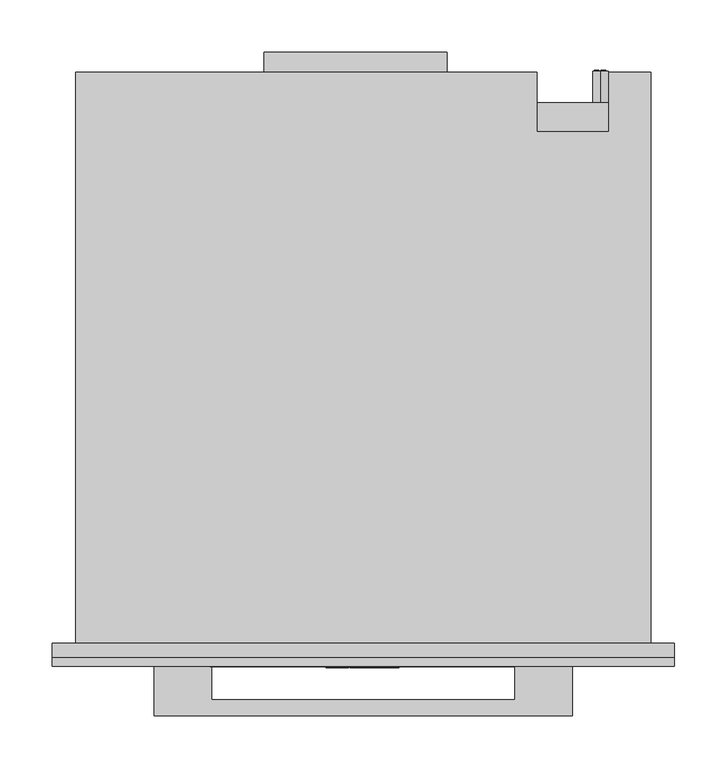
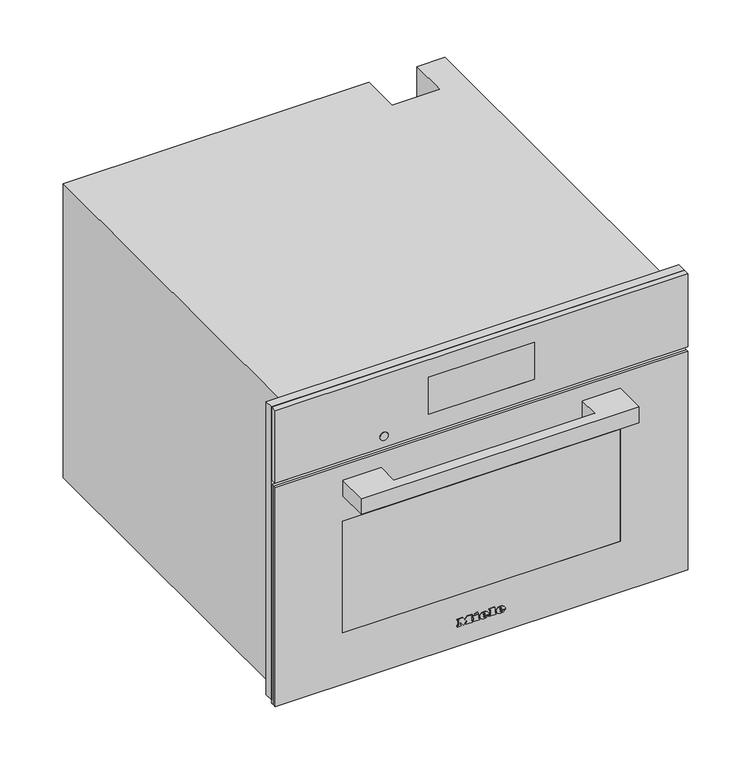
"""IFC4 building model written with IfcOpenShell, lengths in millimetres: proxy geometry, 11876600_USA_DGC7840_GRGR : 23784032_USA_11876600_DGC7840_GRGR."""

from ifc_helpers import new_model, si_unit, point, frame, frame_2d, origin, place, context, project, spatial, polyline, circle_curve, ellipse_curve, trimmed, segment, composite_curve, outline, extrude, faceted_brep, source, transform, mapped, element, save
from ifc_brep_helpers import plane_surface, cylinder_surface, revolved_surface, extruded_surface, advanced_brep


def specialty_equipment_8b00cf28(model_context):
    return source(origin(), model_context, "Body", "SolidModel", [
        extrude(outline(polyline([(455.0, 297.5), (455.0, -297.5), (9.0, -297.5), (9.0, 297.5), (455.0, 297.5)]), holes=[polyline([(344.0, -272.5), (344.0, 272.5), (27.0, 272.5), (27.0, -272.5), (344.0, -272.5)])]), frame((0.0, -13.0, 0.0), z_axis=(0.0, 1.0, 0.0), x_axis=(0.0, 0.0, 1.0)), (0.0, 0.0, 1.0), 13.0),
        extrude(outline(polyline([(-95.0, 565.0), (80.0, 565.0), (80.0, 546.0), (-95.0, 546.0), (-95.0, 565.0)])), frame((0.0, 0.0, 260.0), z_axis=(0.0, 0.0, 1.0), x_axis=(1.0, 0.0, 0.0)), (0.0, 0.0, 1.0), 1.0),
        advanced_brep(
        [(227.0, 547.0, 255.5), (227.0, 547.0, 240.5), (221.4098301, 547.0, 243.0), (225.5, 547.0, 243.0), (225.5, 547.0, 253.0), (224.4955303, 547.0, 253.0), (224.4955303, 547.0, 244.0), (221.0315043, 547.0, 244.0), (221.0315043, 547.0, 243.4582978), (232.0, 547.0, 243.0), (232.0, 547.0, 253.0), (227.0, 547.0, 253.0), (227.0, 547.0, 252.0), (231.0, 547.0, 252.0), (231.0, 547.0, 248.5), (228.0, 547.0, 248.5), (228.0, 547.0, 247.5), (231.0, 547.0, 247.5), (231.0, 547.0, 244.0), (227.0, 547.0, 244.0), (227.0, 547.0, 243.0), (227.0, 517.0, 240.5), (227.0, 517.0, 255.5), (232.0, 548.0, 253.0), (232.0, 548.0, 243.0), (227.0, 548.0, 243.0), (227.0, 548.0, 244.0), (231.0, 548.0, 244.0), (231.0, 548.0, 247.5), (228.0, 548.0, 247.5), (228.0, 548.0, 248.5), (231.0, 548.0, 248.5), (231.0, 548.0, 252.0), (227.0, 548.0, 252.0), (227.0, 548.0, 253.0), (225.5, 548.0, 243.0), (221.0315043, 548.0, 243.0), (221.0315043, 548.0, 244.0), (224.4955303, 548.0, 244.0), (224.4955303, 548.0, 253.0), (225.5, 548.0, 253.0), (221.0315043, 547.0, 243.0)],
        [
            (0, 1, circle_curve(frame((227.0, 547.0, 248.0), z_axis=(0.0, 1.0, 0.0), x_axis=(0.0, 0.0, 1.0)), 7.5)),
            (1, 2, circle_curve(frame((227.0, 547.0, 248.0), z_axis=(0.0, 1.0, 0.0), x_axis=(0.0, 0.0, 1.0)), 7.5)),
            (2, 3),
            (3, 4),
            (4, 5),
            (5, 6),
            (6, 7),
            (7, 8),
            (8, 0, circle_curve(frame((227.0, 547.0, 248.0), z_axis=(0.0, 1.0, 0.0), x_axis=(0.0, 0.0, 1.0)), 7.5)),
            (9, 10),
            (10, 11),
            (11, 12),
            (12, 13),
            (13, 14),
            (14, 15),
            (15, 16),
            (16, 17),
            (17, 18),
            (18, 19),
            (19, 20),
            (20, 9),
            (21, 22, circle_curve(frame((227.0, 517.0, 248.0), z_axis=(0.0, -1.0, 0.0), x_axis=(0.0, 0.0, 1.0)), 7.5)),
            (22, 21, circle_curve(frame((227.0, 517.0, 248.0), z_axis=(0.0, -1.0, 0.0), x_axis=(0.0, 0.0, 1.0)), 7.5)),
            (0, 22),
            (21, 1),
            (8, 2, circle_curve(frame((227.0, 547.0, 248.0), z_axis=(0.0, -1.0, 0.0), x_axis=(0.0, 0.0, 1.0)), 7.5)),
            (23, 24),
            (24, 25),
            (25, 26),
            (26, 27),
            (27, 28),
            (28, 29),
            (29, 30),
            (30, 31),
            (31, 32),
            (32, 33),
            (33, 34),
            (34, 23),
            (35, 36),
            (36, 37),
            (37, 38),
            (38, 39),
            (39, 40),
            (40, 35),
            (8, 41),
            (41, 2),
            (23, 10),
            (9, 24),
            (20, 25),
            (19, 26),
            (18, 27),
            (17, 28),
            (16, 29),
            (15, 30),
            (14, 31),
            (13, 32),
            (12, 33),
            (11, 34),
            (35, 3),
            (41, 36),
            (7, 37),
            (6, 38),
            (5, 39),
            (4, 40),
        ],
        [
            plane_surface(frame((227.0, 547.0, 255.5), z_axis=(0.0, 1.0, 0.0), x_axis=(1.0, 0.0, 0.0))),
            plane_surface(frame((227.0, 517.0, 255.5), z_axis=(0.0, -1.0, 0.0), x_axis=(-1.0, 0.0, 0.0))),
            cylinder_surface(frame((227.0, 547.0, 248.0), z_axis=(0.0, -1.0, 0.0), x_axis=(0.0, 0.0, 1.0)), 7.5),
            plane_surface(frame((232.0, 548.0, 253.0), z_axis=(0.0, 1.0, 0.0), x_axis=(0.0, 0.0, -1.0))),
            plane_surface(frame((232.0, 547.0, 253.0), z_axis=(0.0, -1.0, 0.0), x_axis=(0.0, 0.0, 1.0))),
            plane_surface(frame((232.0, 548.0, 253.0), z_axis=(1.0, 0.0, 0.0), x_axis=(0.0, -1.0, 0.0))),
            plane_surface(frame((232.0, 548.0, 243.0), z_axis=(0.0, 0.0, -1.0), x_axis=(0.0, -1.0, 0.0))),
            plane_surface(frame((227.0, 548.0, 243.0), z_axis=(-1.0, 0.0, 0.0), x_axis=(0.0, -1.0, 0.0))),
            plane_surface(frame((227.0, 548.0, 244.0), z_axis=(0.0, 0.0, 1.0), x_axis=(0.0, -1.0, 0.0))),
            plane_surface(frame((231.0, 548.0, 244.0), z_axis=(-1.0, 0.0, 0.0), x_axis=(0.0, -1.0, 0.0))),
            plane_surface(frame((231.0, 548.0, 247.5), z_axis=(0.0, 0.0, -1.0), x_axis=(0.0, -1.0, 0.0))),
            plane_surface(frame((228.0, 548.0, 247.5), z_axis=(-1.0, 0.0, 0.0), x_axis=(0.0, -1.0, 0.0))),
            plane_surface(frame((228.0, 548.0, 248.5), z_axis=(0.0, 0.0, 1.0), x_axis=(0.0, -1.0, 0.0))),
            plane_surface(frame((231.0, 548.0, 248.5), z_axis=(-1.0, 0.0, 0.0), x_axis=(0.0, -1.0, 0.0))),
            plane_surface(frame((231.0, 548.0, 252.0), z_axis=(0.0, 0.0, -1.0), x_axis=(0.0, -1.0, 0.0))),
            plane_surface(frame((227.0, 548.0, 252.0), z_axis=(-1.0, 0.0, 0.0), x_axis=(0.0, -1.0, 0.0))),
            plane_surface(frame((227.0, 548.0, 253.0), z_axis=(0.0, 0.0, 1.0), x_axis=(0.0, -1.0, 0.0))),
            plane_surface(frame((225.5, 548.0, 243.0), z_axis=(0.0, 0.0, -1.0), x_axis=(0.0, -1.0, 0.0))),
            plane_surface(frame((221.0315043, 548.0, 243.0), z_axis=(-1.0, 0.0, 0.0), x_axis=(0.0, -1.0, 0.0))),
            plane_surface(frame((221.0315043, 548.0, 244.0), z_axis=(0.0, 0.0, 1.0), x_axis=(0.0, -1.0, 0.0))),
            plane_surface(frame((224.4955303, 548.0, 244.0), z_axis=(-1.0, 0.0, 0.0), x_axis=(0.0, -1.0, 0.0))),
            plane_surface(frame((224.4955303, 548.0, 253.0), z_axis=(0.0, 0.0, 1.0), x_axis=(0.0, -1.0, 0.0))),
            plane_surface(frame((225.5, 548.0, 253.0), z_axis=(1.0, 0.0, 0.0), x_axis=(0.0, -1.0, 0.0))),
        ],
        [
            (0, [[1, 2, 3, 4, 5, 6, 7, 8, 9], [10, 11, 12, 13, 14, 15, 16, 17, 18, 19, 20, 21]]),
            (1, [[22, 23]]),
            (2, [[-1, 24, -22, 25]]),
            (2, [[-23, -24, -9, 26, -2, -25]]),
            (3, [[27, 28, 29, 30, 31, 32, 33, 34, 35, 36, 37, 38]]),
            (3, [[39, 40, 41, 42, 43, 44]]),
            (4, [[45, 46, -26]]),
            (5, [[-27, 47, -10, 48]]),
            (6, [[-28, -48, -21, 49]]),
            (7, [[-29, -49, -20, 50]]),
            (8, [[-30, -50, -19, 51]]),
            (9, [[-31, -51, -18, 52]]),
            (10, [[-32, -52, -17, 53]]),
            (11, [[-33, -53, -16, 54]]),
            (12, [[-34, -54, -15, 55]]),
            (13, [[-35, -55, -14, 56]]),
            (14, [[-36, -56, -13, 57]]),
            (15, [[-37, -57, -12, 58]]),
            (16, [[-38, -58, -11, -47]]),
            (17, [[-39, 59, -3, -46, 60]]),
            (18, [[-40, -60, -45, -8, 61]]),
            (19, [[-41, -61, -7, 62]]),
            (20, [[-42, -62, -6, 63]]),
            (21, [[-43, -63, -5, 64]]),
            (22, [[-44, -64, -4, -59]]),
        ],
    ),
        faceted_brep([(-275.0, 546.0, 0.0), (-275.0, 546.0, 448.0), (166.0, 546.0, 448.0), (166.0, 546.0, 0.0), (235.0, 546.0, 448.0), (275.0, 546.0, 448.0), (275.0, 546.0, 338.0), (235.0, 546.0, 338.0), (275.0, 0.0, 448.0), (-275.0, 0.0, 448.0), (-275.0, 0.0, 0.0), (275.0, 0.0, 0.0), (-272.5, 0.0, 344.0), (272.5, 0.0, 344.0), (272.5, 0.0, 27.0), (-272.5, 0.0, 27.0), (235.0, 489.0, 448.0), (166.0, 489.0, 448.0), (166.0, 517.0, 0.0), (275.0, 517.0, 0.0), (275.0, 517.0, 338.0), (272.5, 17.0, 344.0), (-272.5, 17.0, 344.0), (-272.5, 17.0, 27.0), (272.5, 17.0, 27.0), (231.0, 17.0, 307.0), (231.0, 17.0, 65.0), (-231.0, 17.0, 65.0), (-231.0, 17.0, 307.0), (231.0, 411.0, 307.0), (-231.0, 411.0, 307.0), (-231.0, 411.0, 65.0), (231.0, 411.0, 65.0), (235.0, 489.0, 337.0), (166.0, 489.0, 337.0), (166.0, 517.0, 337.0), (235.0, 517.0, 337.0), (235.0, 517.0, 338.0)], [[[0, 1, 2, 3]], [[4, 5, 6, 7]], [[8, 9, 10, 11], [12, 13, 14, 15]], [[9, 8, 5, 4, 16, 17, 2, 1]], [[1, 0, 10, 9]], [[11, 10, 0, 3, 18, 19]], [[8, 11, 19, 20, 6, 5]], [[21, 22, 23, 24], [25, 26, 27, 28]], [[22, 21, 13, 12]], [[23, 22, 12, 15]], [[24, 23, 15, 14]], [[21, 24, 14, 13]], [[29, 30, 31, 32]], [[29, 32, 26, 25]], [[32, 31, 27, 26]], [[31, 30, 28, 27]], [[30, 29, 25, 28]], [[16, 33, 34, 17]], [[17, 34, 35, 18, 3, 2]], [[34, 33, 36, 35]], [[33, 16, 4, 7, 37, 36]], [[37, 20, 19, 18, 35, 36]], [[20, 37, 7, 6]]]),
        advanced_brep(
        [(26.2998, -23.0, 36.7018), (26.2998, -23.0, 37.8532), (33.9264, -23.0, 37.8532), (20.6568, -23.0, 37.8532), (23.7918, -23.0, 34.0), (33.7326, -23.0, 36.7018), (30.2898, -23.0, 36.7018), (27.5766, -23.0, 35.425), (26.2998, -23.0, 39.3124), (26.2998, -23.0, 40.555), (28.2492, -23.0, 40.555), (28.2492, -23.0, 39.3124), (26.2998, -22.0, 36.7018), (27.5766, -22.0, 35.425), (30.2898, -22.0, 36.7018), (33.7326, -22.0, 36.7018), (23.7918, -22.0, 34.0), (20.6568, -22.0, 37.8532), (33.9264, -22.0, 37.8532), (26.2998, -22.0, 37.8532), (26.2998, -22.0, 39.3124), (28.2492, -22.0, 39.3124), (28.2492, -22.0, 40.555), (26.2998, -22.0, 40.555)],
        [
            (0, 1),
            (1, 2),
            (2, 3, ellipse_curve(frame((27.2916, -23.0, 37.8532), z_axis=(0.0, -1.0, 0.0), x_axis=(-1.0, 0.0, 0.0)), 6.6348, 5.4834)),
            (3, 4, circle_curve(frame((25.0686622, -23.0, 38.2408), z_axis=(0.0, -1.0, 0.0), x_axis=(0.0, 0.0, -1.0)), 4.4288556)),
            (4, 5, circle_curve(frame((27.1587808, -23.0, 41.2504), z_axis=(0.0, -1.0, 0.0), x_axis=(0.0, 0.0, -1.0)), 7.9940516)),
            (5, 6),
            (6, 7, circle_curve(frame((28.1338588, -23.0, 37.762), z_axis=(0.0, 1.0, 0.0), x_axis=(0.0, 0.0, -1.0)), 2.4025208)),
            (7, 0, circle_curve(frame((27.5766, -23.0, 36.7018), z_axis=(0.0, 1.0, 0.0), x_axis=(0.0, 0.0, -1.0)), 1.2768)),
            (8, 9),
            (9, 10, circle_curve(frame((27.2745, -23.0, 40.555), z_axis=(0.0, 1.0, 0.0), x_axis=(0.0, 0.0, -1.0)), 0.9747)),
            (10, 11),
            (11, 8),
            (12, 13, circle_curve(frame((27.5766, -22.0, 36.7018), z_axis=(0.0, -1.0, 0.0), x_axis=(0.0, 0.0, -1.0)), 1.2768)),
            (13, 14, circle_curve(frame((28.1338588, -22.0, 37.762), z_axis=(0.0, -1.0, 0.0), x_axis=(0.0, 0.0, -1.0)), 2.4025208)),
            (14, 15),
            (15, 16, circle_curve(frame((27.1587808, -22.0, 41.2504), z_axis=(0.0, 1.0, 0.0), x_axis=(0.0, 0.0, -1.0)), 7.9940516)),
            (16, 17, circle_curve(frame((25.0686622, -22.0, 38.2408), z_axis=(0.0, 1.0, 0.0), x_axis=(0.0, 0.0, -1.0)), 4.4288556)),
            (17, 18, ellipse_curve(frame((27.2916, -22.0, 37.8532), z_axis=(0.0, 1.0, 0.0), x_axis=(-1.0, 0.0, 0.0)), 6.6348, 5.4834)),
            (18, 19),
            (19, 12),
            (20, 21),
            (21, 22),
            (22, 23, circle_curve(frame((27.2745, -22.0, 40.555), z_axis=(0.0, -1.0, 0.0), x_axis=(0.0, 0.0, -1.0)), 0.9747)),
            (23, 20),
            (0, 12),
            (19, 1),
            (18, 2),
            (5, 15),
            (14, 6),
            (17, 3),
            (13, 7),
            (16, 4),
            (8, 20),
            (23, 9),
            (22, 10),
            (21, 11),
        ],
        [
            plane_surface(frame((26.2998, -23.0, 37.8532), z_axis=(0.0, -1.0, 0.0), x_axis=(0.0, 0.0, 1.0))),
            plane_surface(frame((26.2998, -22.0, 37.8532), z_axis=(0.0, 1.0, 0.0), x_axis=(0.0, 0.0, -1.0))),
            plane_surface(frame((26.2998, -23.0, 36.7018), z_axis=(1.0, 0.0, 0.0), x_axis=(0.0, 1.0, 0.0))),
            plane_surface(frame((26.2998, -23.0, 37.8532), z_axis=(0.0, 0.0, -1.0), x_axis=(0.0, 1.0, 0.0))),
            plane_surface(frame((33.7326, -23.0, 36.7018), z_axis=(0.0, 0.0, 1.0), x_axis=(0.0, 1.0, 0.0))),
            extruded_surface(trimmed(ellipse_curve(frame((27.2916, -21.0, 37.8532), z_axis=(0.0, -1.0, 0.0), x_axis=(-1.0, 0.0, 0.0)), 6.6348, 5.4834), [point((33.9264, -21.0, 37.8532))], [point((20.6568, -21.0, 37.8532))], True, "CARTESIAN"), (0.0, -1.0, 0.0), 1.0),
            revolved_surface(polyline([(28.1338588, -22.0, 35.3594792), (28.1338588, -23.0, 35.3594792)]), (28.1338588, -22.0, 37.762), (0.0, 1.0, 0.0)),
            revolved_surface(polyline([(27.5766, -22.0, 35.425), (27.5766, -23.0, 35.425)]), (27.5766, -22.0, 36.7018), (0.0, 1.0, 0.0)),
            cylinder_surface(frame((25.0686622, -22.0, 38.2408), z_axis=(0.0, -1.0, 0.0), x_axis=(0.0, 0.0, -1.0)), 4.4288556),
            cylinder_surface(frame((27.1587808, -22.0, 41.2504), z_axis=(0.0, -1.0, 0.0), x_axis=(0.0, 0.0, -1.0)), 7.9940516),
            plane_surface(frame((26.2998, -23.0, 39.3124), z_axis=(1.0, 0.0, 0.0), x_axis=(0.0, 1.0, 0.0))),
            revolved_surface(polyline([(27.2745, -22.0, 39.5803), (27.2745, -23.0, 39.5803)]), (27.2745, -22.0, 40.555), (0.0, 1.0, 0.0)),
            plane_surface(frame((28.2492, -23.0, 40.555), z_axis=(-1.0, 0.0, 0.0), x_axis=(0.0, 1.0, 0.0))),
            plane_surface(frame((28.2492, -23.0, 39.3124), z_axis=(0.0, 0.0, 1.0), x_axis=(0.0, 1.0, 0.0))),
        ],
        [
            (0, [[1, 2, 3, 4, 5, 6, 7, 8], [9, 10, 11, 12]]),
            (1, [[13, 14, 15, 16, 17, 18, 19, 20], [21, 22, 23, 24]]),
            (2, [[-1, 25, -20, 26]]),
            (3, [[-2, -26, -19, 27]]),
            (4, [[-6, 28, -15, 29]]),
            (5, [[-3, -27, -18, 30]]),
            (6, [[-7, -29, -14, 31]]),
            (7, [[-8, -31, -13, -25]]),
            (8, [[-4, -30, -17, 32]]),
            (9, [[-5, -32, -16, -28]]),
            (10, [[-9, 33, -24, 34]]),
            (11, [[-10, -34, -23, 35]]),
            (12, [[-11, -35, -22, 36]]),
            (13, [[-12, -36, -21, -33]]),
        ],
    ),
        advanced_brep(
        [(2.508, -23.0, 36.7018), (2.508, -23.0, 37.8532), (10.1346, -23.0, 37.8532), (-3.135, -23.0, 37.8532), (0.0, -23.0, 34.0), (9.9408, -23.0, 36.7018), (6.498, -23.0, 36.7018), (3.7848, -23.0, 35.425), (2.508, -23.0, 39.3124), (2.508, -23.0, 40.555), (4.4574, -23.0, 40.555), (4.4574, -23.0, 39.3124), (2.508, -22.0, 36.7018), (3.7848, -22.0, 35.425), (6.498, -22.0, 36.7018), (9.9408, -22.0, 36.7018), (0.0, -22.0, 34.0), (-3.135, -22.0, 37.8532), (10.1346, -22.0, 37.8532), (2.508, -22.0, 37.8532), (2.508, -22.0, 39.3124), (4.4574, -22.0, 39.3124), (4.4574, -22.0, 40.555), (2.508, -22.0, 40.555)],
        [
            (0, 1),
            (1, 2),
            (2, 3, ellipse_curve(frame((3.4998, -23.0, 37.8532), z_axis=(0.0, -1.0, 0.0), x_axis=(-1.0, 0.0, 0.0)), 6.6348, 5.4834)),
            (3, 4, circle_curve(frame((1.2768622, -23.0, 38.2408), z_axis=(0.0, -1.0, 0.0), x_axis=(0.0, 0.0, -1.0)), 4.4288556)),
            (4, 5, circle_curve(frame((3.3669808, -23.0, 41.2504), z_axis=(0.0, -1.0, 0.0), x_axis=(0.0, 0.0, -1.0)), 7.9940516)),
            (5, 6),
            (6, 7, circle_curve(frame((4.3420588, -23.0, 37.762), z_axis=(0.0, 1.0, 0.0), x_axis=(0.0, 0.0, -1.0)), 2.4025208)),
            (7, 0, circle_curve(frame((3.7848, -23.0, 36.7018), z_axis=(0.0, 1.0, 0.0), x_axis=(0.0, 0.0, -1.0)), 1.2768)),
            (8, 9),
            (9, 10, circle_curve(frame((3.4827, -23.0, 40.555), z_axis=(0.0, 1.0, 0.0), x_axis=(0.0, 0.0, -1.0)), 0.9747)),
            (10, 11),
            (11, 8),
            (12, 13, circle_curve(frame((3.7848, -22.0, 36.7018), z_axis=(0.0, -1.0, 0.0), x_axis=(0.0, 0.0, -1.0)), 1.2768)),
            (13, 14, circle_curve(frame((4.3420588, -22.0, 37.762), z_axis=(0.0, -1.0, 0.0), x_axis=(0.0, 0.0, -1.0)), 2.4025208)),
            (14, 15),
            (15, 16, circle_curve(frame((3.3669808, -22.0, 41.2504), z_axis=(0.0, 1.0, 0.0), x_axis=(0.0, 0.0, -1.0)), 7.9940516)),
            (16, 17, circle_curve(frame((1.2768622, -22.0, 38.2408), z_axis=(0.0, 1.0, 0.0), x_axis=(0.0, 0.0, -1.0)), 4.4288556)),
            (17, 18, ellipse_curve(frame((3.4998, -22.0, 37.8532), z_axis=(0.0, 1.0, 0.0), x_axis=(-1.0, 0.0, 0.0)), 6.6348, 5.4834)),
            (18, 19),
            (19, 12),
            (20, 21),
            (21, 22),
            (22, 23, circle_curve(frame((3.4827, -22.0, 40.555), z_axis=(0.0, -1.0, 0.0), x_axis=(0.0, 0.0, -1.0)), 0.9747)),
            (23, 20),
            (0, 12),
            (19, 1),
            (18, 2),
            (5, 15),
            (14, 6),
            (17, 3),
            (13, 7),
            (16, 4),
            (8, 20),
            (23, 9),
            (22, 10),
            (21, 11),
        ],
        [
            plane_surface(frame((2.508, -23.0, 37.8532), z_axis=(0.0, -1.0, 0.0), x_axis=(0.0, 0.0, 1.0))),
            plane_surface(frame((2.508, -22.0, 37.8532), z_axis=(0.0, 1.0, 0.0), x_axis=(0.0, 0.0, -1.0))),
            plane_surface(frame((2.508, -23.0, 36.7018), z_axis=(1.0, 0.0, 0.0), x_axis=(0.0, 1.0, 0.0))),
            plane_surface(frame((2.508, -23.0, 37.8532), z_axis=(0.0, 0.0, -1.0), x_axis=(0.0, 1.0, 0.0))),
            plane_surface(frame((9.9408, -23.0, 36.7018), z_axis=(0.0, 0.0, 1.0), x_axis=(0.0, 1.0, 0.0))),
            extruded_surface(trimmed(ellipse_curve(frame((3.4998, -21.0, 37.8532), z_axis=(0.0, -1.0, 0.0), x_axis=(-1.0, 0.0, 0.0)), 6.6348, 5.4834), [point((10.1346, -21.0, 37.8532))], [point((-3.135, -21.0, 37.8532))], True, "CARTESIAN"), (0.0, -1.0, 0.0), 1.0),
            revolved_surface(polyline([(4.3420588, -22.0, 35.3594792), (4.3420588, -23.0, 35.3594792)]), (4.3420588, -22.0, 37.762), (0.0, 1.0, 0.0)),
            revolved_surface(polyline([(3.7848, -22.0, 35.425), (3.7848, -23.0, 35.425)]), (3.7848, -22.0, 36.7018), (0.0, 1.0, 0.0)),
            cylinder_surface(frame((1.2768622, -22.0, 38.2408), z_axis=(0.0, -1.0, 0.0), x_axis=(0.0, 0.0, -1.0)), 4.4288556),
            cylinder_surface(frame((3.3669808, -22.0, 41.2504), z_axis=(0.0, -1.0, 0.0), x_axis=(0.0, 0.0, -1.0)), 7.9940516),
            plane_surface(frame((2.508, -23.0, 39.3124), z_axis=(1.0, 0.0, 0.0), x_axis=(0.0, 1.0, 0.0))),
            revolved_surface(polyline([(3.4827, -22.0, 39.5803), (3.4827, -23.0, 39.5803)]), (3.4827, -22.0, 40.555), (0.0, 1.0, 0.0)),
            plane_surface(frame((4.4574, -23.0, 40.555), z_axis=(-1.0, 0.0, 0.0), x_axis=(0.0, 1.0, 0.0))),
            plane_surface(frame((4.4574, -23.0, 39.3124), z_axis=(0.0, 0.0, 1.0), x_axis=(0.0, 1.0, 0.0))),
        ],
        [
            (0, [[1, 2, 3, 4, 5, 6, 7, 8], [9, 10, 11, 12]]),
            (1, [[13, 14, 15, 16, 17, 18, 19, 20], [21, 22, 23, 24]]),
            (2, [[-1, 25, -20, 26]]),
            (3, [[-2, -26, -19, 27]]),
            (4, [[-6, 28, -15, 29]]),
            (5, [[-3, -27, -18, 30]]),
            (6, [[-7, -29, -14, 31]]),
            (7, [[-8, -31, -13, -25]]),
            (8, [[-4, -30, -17, 32]]),
            (9, [[-5, -32, -16, -28]]),
            (10, [[-9, 33, -24, 34]]),
            (11, [[-10, -34, -23, 35]]),
            (12, [[-11, -35, -22, 36]]),
            (13, [[-12, -36, -21, -33]]),
        ],
    ),
        extrude(outline(polyline([(44.7274, -9.9522), (42.8806, -9.0858), (44.6818, -5.2212), (46.5286, -6.0762), (44.7274, -9.9522)])), frame((0.0, -23.0, 0.0), z_axis=(0.0, 1.0, 0.0), x_axis=(0.0, 0.0, 1.0)), (0.0, 0.0, 1.0), 1.0),
        extrude(outline(polyline([(42.6298, -12.768), (40.5892, -12.768), (40.5892, -11.4114), (35.9152, -11.4114), (35.9152, -12.768), (34.0, -12.768), (34.0, -3.7734), (35.9152, -3.7734), (35.9152, -5.0958), (42.6298, -5.0958), (42.6298, -12.768)])), frame((0.0, -23.0, 0.0), z_axis=(0.0, 1.0, 0.0), x_axis=(0.0, 0.0, 1.0)), (0.0, 0.0, 1.0), 1.0),
        extrude(outline(polyline([(43.5418, 10.773), (43.5418, 12.141), (35.9152, 12.141), (35.9152, 10.773), (34.0, 10.773), (34.0, 20.0184), (35.9152, 20.0184), (35.9152, 18.6162), (45.4, 18.6162), (45.4, 10.773), (43.5418, 10.773)])), frame((0.0, -23.0, 0.0), z_axis=(0.0, 1.0, 0.0), x_axis=(0.0, 0.0, 1.0)), (0.0, 0.0, 1.0), 1.0),
        extrude(outline(polyline([(43.5418, -35.4882), (43.5418, -34.1088), (35.9152, -34.1088), (35.9152, -35.4882), (34.0, -35.4882), (34.0, -30.4722), (35.9152, -30.4722), (35.9152, -31.8402), (40.7429247, -31.8402), (34.0, -26.7444), (40.9402223, -21.6258), (35.9152, -21.6258), (35.9152, -23.028), (34.0, -23.028), (34.0, -13.9308), (35.9152, -13.9308), (35.9152, -15.3786), (43.5418, -15.3786), (43.5418, -13.9308), (45.4, -13.9308), (45.4, -20.8734), (41.125, -24.2022), (45.4, -27.5424), (45.4, -35.4882), (43.5418, -35.4882)])), frame((0.0, -23.0, 0.0), z_axis=(0.0, 1.0, 0.0), x_axis=(0.0, 0.0, 1.0)), (0.0, 0.0, 1.0), 1.0),
        extrude(outline(composite_curve([segment(trimmed(circle_curve(frame_2d((361.0, -140.5745637)), 6.0), [point((361.0, -146.5745637))], [point((361.0, -134.5745637))], False, "CARTESIAN"), True, "CONTINUOUS"), segment(trimmed(circle_curve(frame_2d((361.0, -140.5745637)), 6.0), [point((361.0, -134.5745637))], [point((361.0, -146.5745637))], False, "CARTESIAN"), True, "CONTINUOUS")], self_intersect=False)), frame((0.0, -22.5, 0.0), z_axis=(0.0, 1.0, 0.0), x_axis=(0.0, 0.0, 1.0)), (0.0, 0.0, 1.0), 1.0),
        extrude(outline(polyline([(-76.5, -21.0), (76.5, -21.0), (76.5, -22.0), (-76.5, -22.0), (-76.5, -21.0)])), frame((0.0, 0.0, 372.0), z_axis=(0.0, 0.0, 1.0), x_axis=(1.0, 0.0, 0.0)), (0.0, 0.0, 1.0), 56.0),
        faceted_brep([(297.5, -22.0, 455.0), (-297.5, -22.0, 455.0), (-297.5, -22.0, 344.0), (297.5, -22.0, 344.0), (76.5, -22.0, 428.0), (76.5, -22.0, 372.0), (-76.5, -22.0, 372.0), (-76.5, -22.0, 428.0), (297.5, -13.0, 455.0), (297.5, -13.0, 344.0), (-297.5, -13.0, 344.0), (-297.5, -13.0, 455.0), (76.5, -21.0, 428.0), (-76.5, -21.0, 428.0), (-76.5, -21.0, 372.0), (76.5, -21.0, 372.0)], [[[0, 1, 2, 3], [4, 5, 6, 7]], [[8, 9, 10, 11]], [[1, 0, 8, 11]], [[2, 1, 11, 10]], [[3, 2, 10, 9]], [[0, 3, 9, 8]], [[12, 13, 14, 15]], [[12, 15, 5, 4]], [[15, 14, 6, 5]], [[14, 13, 7, 6]], [[13, 12, 4, 7]]]),
        extrude(outline(polyline([(200.0, -22.0), (-200.0, -22.0), (-200.0, -18.0), (200.0, -18.0), (200.0, -22.0)])), frame((0.0, 0.0, 82.0), z_axis=(0.0, 0.0, 1.0), x_axis=(1.0, 0.0, 0.0)), (0.0, 0.0, 1.0), 170.0),
        extrude(outline(polyline([(337.0, 297.5), (337.0, -297.5), (4.0, -297.5), (4.0, 297.5), (337.0, 297.5)]), holes=[polyline([(252.0, -200.0), (252.0, 200.0), (82.0, 200.0), (82.0, -200.0), (252.0, -200.0)])]), frame((0.0, -22.0, 0.0), z_axis=(0.0, 1.0, 0.0), x_axis=(0.0, 0.0, 1.0)), (0.0, 0.0, 1.0), 4.0),
        extrude(outline(polyline([(-200.0, -69.0), (-200.0, -22.0), (-145.0, -22.0), (-145.0, -54.0), (145.0, -54.0), (145.0, -22.0), (200.0, -22.0), (200.0, -69.0), (-200.0, -69.0)])), frame((0.0, 0.0, 291.0), z_axis=(0.0, 0.0, 1.0), x_axis=(1.0, 0.0, 0.0)), (0.0, 0.0, 1.0), 24.0),
        extrude(outline(polyline([(297.5, -18.0), (-297.5, -18.0), (-297.5, -13.0), (297.5, -13.0), (297.5, -18.0)])), frame((0.0, 0.0, 4.0), z_axis=(0.0, 0.0, 1.0), x_axis=(1.0, 0.0, 0.0)), (0.0, 0.0, 1.0), 333.0),
    ])


if __name__ == "__main__":
    model = new_model("IFC4")
    model_context = context("Model", 3, world=origin())
    ifc_project = project(units=[si_unit("LENGTHUNIT", "METRE", prefix="MILLI")], contexts=[model_context])
    site = spatial("IfcSite", under=ifc_project)
    building = spatial("IfcBuilding", under=site)
    placement = place(None, origin())
    specialty_equipment_shape = specialty_equipment_8b00cf28(model_context)
    element("IfcBuildingElementProxy", 1, Name="11876600_USA_DGC7840_GRGR : 23784032_USA_11876600_DGC7840_GRGR", ObjectType="11876600_USA_DGC7840_GRGR : 23784032_USA_11876600_DGC7840_GRGR", at=placement, inside=building, context=model_context, shape_type="MappedRepresentation", body=[
        mapped(specialty_equipment_shape, transform((0.0, 0.0, 0.0), x_axis=(1.0, 0.0, 0.0), y_axis=(0.0, 1.0, 0.0), z_axis=(0.0, 0.0, 1.0))),
    ])
    save(model, "model.ifc")
